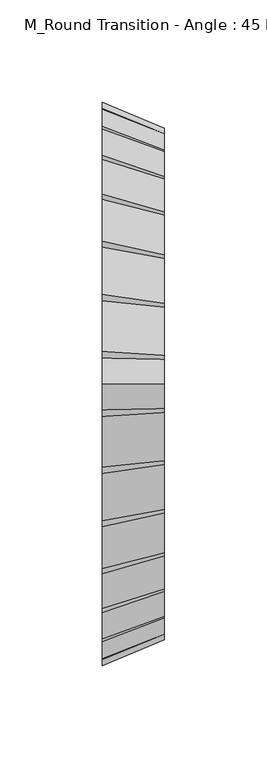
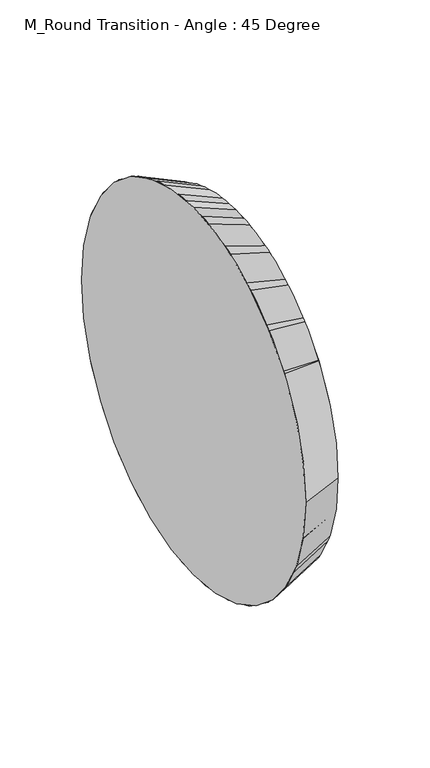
"""IFC4 building model written with IfcOpenShell, lengths in millimetres: duct fitting geometry, M_Round Transition - Angle : 45 Degree."""

from ifc_helpers import new_model, si_unit, frame, origin, place, context, project, spatial, polyline, circle_curve, source, transform, mapped, element, save
from ifc_brep_helpers import plane_surface, revolved_surface, advanced_brep


def m_round_transition_angle_45_degree_7b8037f7(model_context):
    return source(origin(), model_context, "Body", "AdvancedBrep", [
        advanced_brep(
        [(30.1776695, -125.0, 0.0), (30.1776695, 0.0, -125.0), (30.1776695, 125.0, 0.0), (30.1776695, 0.0, 125.0), (0.0, -137.5, 0.0), (0.0, 0.0, 137.5), (0.0, 137.5, 0.0), (0.0, 0.0, -137.5)],
        [
            (0, 1, circle_curve(frame((30.1776695, 0.0, 0.0), z_axis=(1.0, 0.0, 0.0), x_axis=(0.0, -1.0, 0.0)), 125.0)),
            (1, 2, circle_curve(frame((30.1776695, 0.0, 0.0), z_axis=(1.0, 0.0, 0.0), x_axis=(0.0, 0.0, -1.0)), 125.0)),
            (2, 3, circle_curve(frame((30.1776695, 0.0, 0.0), z_axis=(1.0, 0.0, 0.0), x_axis=(0.0, 1.0, 0.0)), 125.0)),
            (3, 0, circle_curve(frame((30.1776695, 0.0, 0.0), z_axis=(1.0, 0.0, 0.0), x_axis=(0.0, 0.0, 1.0)), 125.0)),
            (4, 5, circle_curve(frame((0.0, 0.0, 0.0), z_axis=(-1.0, 0.0, 0.0), x_axis=(0.0, 0.0, 1.0)), 137.5)),
            (5, 6, circle_curve(frame((0.0, 0.0, 0.0), z_axis=(-1.0, 0.0, 0.0), x_axis=(0.0, 1.0, 0.0)), 137.5)),
            (6, 7, circle_curve(frame((0.0, 0.0, 0.0), z_axis=(-1.0, 0.0, 0.0), x_axis=(0.0, 0.0, -1.0)), 137.5)),
            (7, 4, circle_curve(frame((0.0, 0.0, 0.0), z_axis=(-1.0, 0.0, 0.0), x_axis=(0.0, -1.0, 0.0)), 137.5)),
            (7, 1),
            (0, 4),
            (6, 2),
            (5, 3),
        ],
        [
            plane_surface(frame((30.1776695, 0.0, 0.0), z_axis=(1.0, 0.0, 0.0), x_axis=(0.0, 0.0, -1.0))),
            plane_surface(frame((0.0, 0.0, 0.0), z_axis=(-1.0, 0.0, 0.0), x_axis=(0.0, 0.0, -1.0))),
            revolved_surface(polyline([(30.17766949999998, -125.00000001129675, 0.0), (0.0, -137.5, 0.0)]), (331.9543648, 0.0, 0.0), (-1.0, 0.0, 0.0)),
            revolved_surface(polyline([(30.17766949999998, 0.0, -125.00000001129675), (0.0, 0.0, -137.5)]), (331.9543648, 0.0, 0.0), (-1.0, 0.0, 0.0)),
            revolved_surface(polyline([(30.17766949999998, 125.00000001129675, 0.0), (0.0, 137.5, 0.0)]), (331.9543648, 0.0, 0.0), (-1.0, 0.0, 0.0)),
            revolved_surface(polyline([(30.17766949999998, 0.0, 125.00000001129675), (0.0, 0.0, 137.5)]), (331.9543648, 0.0, 0.0), (-1.0, 0.0, 0.0)),
        ],
        [
            (0, [[1, 2, 3, 4]]),
            (1, [[5, 6, 7, 8]]),
            (2, [[-8, 9, -1, 10]]),
            (3, [[-7, 11, -2, -9]]),
            (4, [[-6, 12, -3, -11]]),
            (5, [[-5, -10, -4, -12]]),
        ],
    ),
        advanced_brep(
        [(0.0, -137.5, 0.0), (0.0, 0.0, 137.5), (0.0, 137.5, 0.0), (0.0, 0.0, -137.5), (30.1776695, -125.0, 0.0), (30.1776695, 0.0, -125.0), (30.1776695, 125.0, 0.0), (30.1776695, 0.0, 125.0)],
        [
            (0, 1, circle_curve(frame((0.0, 0.0, 0.0), z_axis=(-1.0, 0.0, 0.0), x_axis=(0.0, -1.0, 0.0)), 137.5)),
            (1, 2, circle_curve(frame((0.0, 0.0, 0.0), z_axis=(-1.0, 0.0, 0.0), x_axis=(0.0, 0.0, 1.0)), 137.5)),
            (2, 3, circle_curve(frame((0.0, 0.0, 0.0), z_axis=(-1.0, 0.0, 0.0), x_axis=(0.0, 1.0, 0.0)), 137.5)),
            (3, 0, circle_curve(frame((0.0, 0.0, 0.0), z_axis=(-1.0, 0.0, 0.0), x_axis=(0.0, 0.0, -1.0)), 137.5)),
            (4, 5, circle_curve(frame((30.1776695, 0.0, 0.0), z_axis=(1.0, 0.0, 0.0), x_axis=(0.0, 0.0, -1.0)), 125.0)),
            (5, 6, circle_curve(frame((30.1776695, 0.0, 0.0), z_axis=(1.0, 0.0, 0.0), x_axis=(0.0, 1.0, 0.0)), 125.0)),
            (6, 7, circle_curve(frame((30.1776695, 0.0, 0.0), z_axis=(1.0, 0.0, 0.0), x_axis=(0.0, 0.0, 1.0)), 125.0)),
            (7, 4, circle_curve(frame((30.1776695, 0.0, 0.0), z_axis=(1.0, 0.0, 0.0), x_axis=(0.0, -1.0, 0.0)), 125.0)),
            (7, 1),
            (0, 4),
            (6, 2),
            (5, 3),
        ],
        [
            plane_surface(frame((0.0, 0.0, 0.0), z_axis=(-1.0, 0.0, 0.0), x_axis=(0.0, 0.0, -1.0))),
            plane_surface(frame((30.1776695, 0.0, 0.0), z_axis=(1.0, 0.0, 0.0), x_axis=(0.0, 0.0, -1.0))),
            revolved_surface(polyline([(30.17766949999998, 0.0, 125.00000001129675), (0.0, 0.0, 137.5)]), (331.9543648, 0.0, 0.0), (-1.0, 0.0, 0.0)),
            revolved_surface(polyline([(30.17766949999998, 125.00000001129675, 0.0), (0.0, 137.5, 0.0)]), (331.9543648, 0.0, 0.0), (-1.0, 0.0, 0.0)),
            revolved_surface(polyline([(30.17766949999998, 0.0, -125.00000001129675), (0.0, 0.0, -137.5)]), (331.9543648, 0.0, 0.0), (-1.0, 0.0, 0.0)),
            revolved_surface(polyline([(30.17766949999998, -125.00000001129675, 0.0), (0.0, -137.5, 0.0)]), (331.9543648, 0.0, 0.0), (-1.0, 0.0, 0.0)),
        ],
        [
            (0, [[1, 2, 3, 4]]),
            (1, [[5, 6, 7, 8]]),
            (2, [[-8, 9, -1, 10]]),
            (3, [[-7, 11, -2, -9]]),
            (4, [[-6, 12, -3, -11]]),
            (5, [[-5, -10, -4, -12]]),
        ],
    ),
        advanced_brep(
        [(30.1776695, -125.0, 0.0), (30.1776695, 125.0, 0.0), (0.0, -137.5, 0.0), (0.0, 137.5, 0.0)],
        [
            (0, 1, circle_curve(frame((30.1776695, 0.0, 0.0), z_axis=(1.0, 0.0, 0.0), x_axis=(0.0, -1.0, 0.0)), 125.0)),
            (1, 0, circle_curve(frame((30.1776695, 0.0, 0.0), z_axis=(1.0, 0.0, 0.0), x_axis=(0.0, 1.0, 0.0)), 125.0)),
            (2, 3, circle_curve(frame((0.0, 0.0, 0.0), z_axis=(-1.0, 0.0, 0.0), x_axis=(0.0, 1.0, 0.0)), 137.5)),
            (3, 2, circle_curve(frame((0.0, 0.0, 0.0), z_axis=(-1.0, 0.0, 0.0), x_axis=(0.0, -1.0, 0.0)), 137.5)),
            (3, 1),
            (0, 2),
        ],
        [
            plane_surface(frame((30.1776695, 0.0, 0.0), z_axis=(1.0, 0.0, 0.0), x_axis=(0.0, 0.0, -1.0))),
            plane_surface(frame((0.0, 0.0, 0.0), z_axis=(-1.0, 0.0, 0.0), x_axis=(0.0, 0.0, -1.0))),
            revolved_surface(polyline([(30.17766949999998, -125.00000001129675, 0.0), (0.0, -137.5, 0.0)]), (331.9543648, 0.0, 0.0), (-1.0, 0.0, 0.0)),
            revolved_surface(polyline([(30.17766949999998, 125.00000001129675, 0.0), (0.0, 137.5, 0.0)]), (331.9543648, 0.0, 0.0), (-1.0, 0.0, 0.0)),
        ],
        [
            (0, [[1, 2]]),
            (1, [[3, 4]]),
            (2, [[-4, 5, -1, 6]]),
            (3, [[-3, -6, -2, -5]]),
        ],
    ),
    ])


if __name__ == "__main__":
    model = new_model("IFC4")
    model_context = context("Model", 3, world=origin())
    ifc_project = project(units=[si_unit("LENGTHUNIT", "METRE", prefix="MILLI")], contexts=[model_context])
    site = spatial("IfcSite", under=ifc_project)
    building = spatial("IfcBuilding", under=site)
    placement = place(None, origin())
    m_round_transition_angle_45_degree_shape = m_round_transition_angle_45_degree_7b8037f7(model_context)
    element("IfcDuctFitting", 1, ObjectType="M_Round Transition - Angle : 45 Degree", at=placement, inside=building, context=model_context, shape_type="MappedRepresentation", body=[
        mapped(m_round_transition_angle_45_degree_shape, transform((0.0, 0.0, 0.0), x_axis=(1.0, 0.0, 0.0), y_axis=(0.0, 1.0, 0.0), z_axis=(0.0, 0.0, 1.0))),
    ])
    save(model, "model.ifc")
